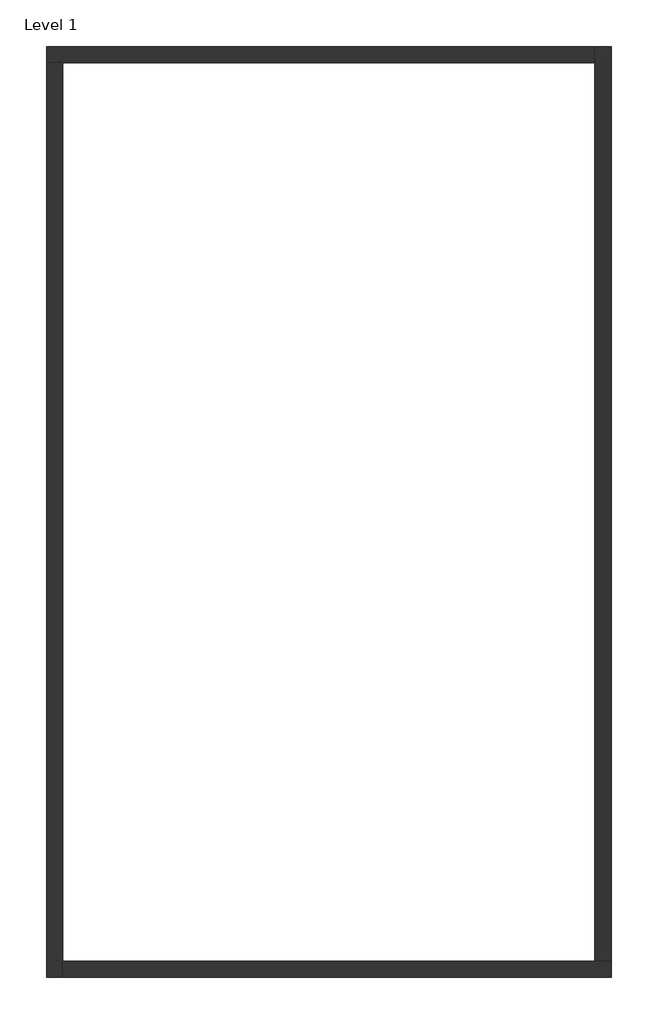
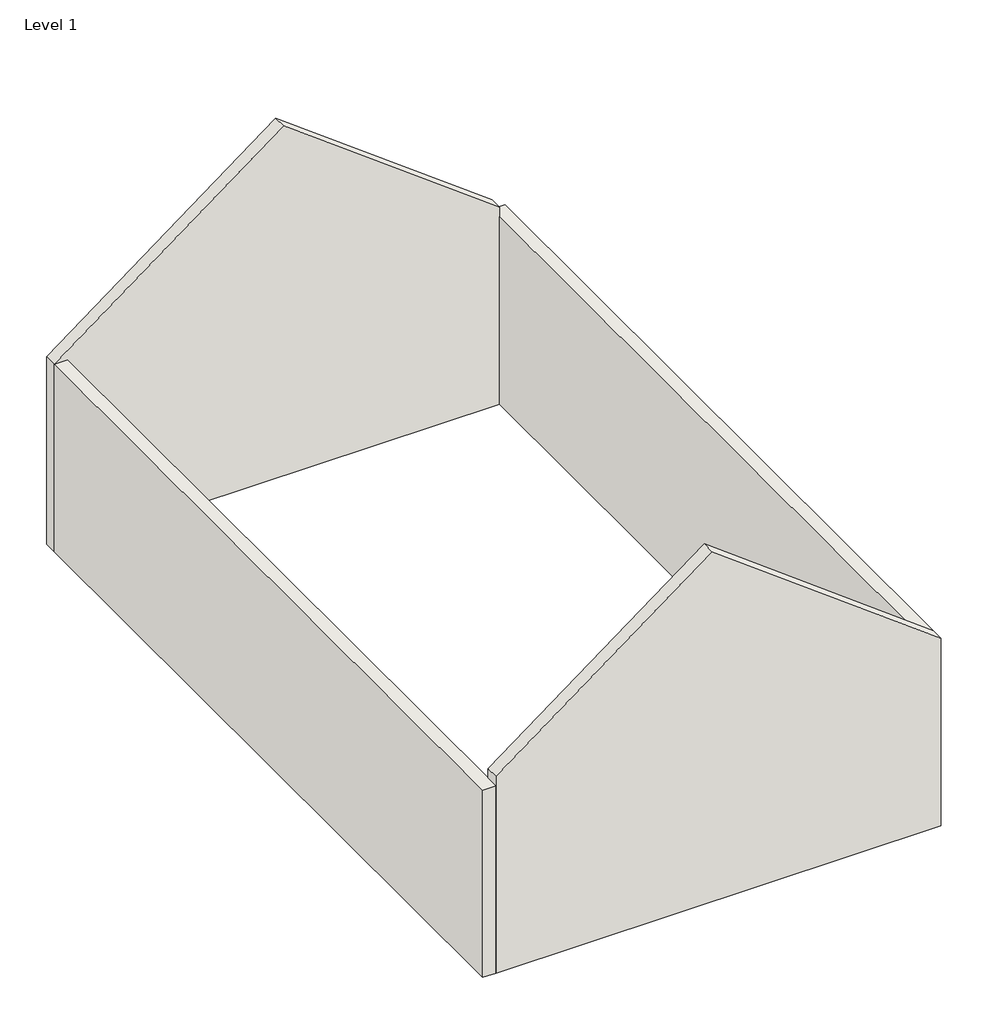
# One storey: 4 walls.
"""IFC4 building model written with IfcOpenShell, lengths in millimetres."""

from ifc_helpers import new_model, si_unit, origin, place, context, project, spatial, faceted_brep, element, save

model = new_model("IFC4")

# Units and contexts
model_context = context("Model", 3, world=origin())
ifc_project = project(units=[si_unit("LENGTHUNIT", "METRE", prefix="MILLI")], contexts=[model_context])

# Site, building, storey
site = spatial("IfcSite", under=ifc_project)
building = spatial("IfcBuilding", under=site)
storey = spatial("IfcBuildingStorey", under=building, Name="Level 1", Elevation=0.0)

# Walls
placement = place(None, origin())
element("IfcWall", 1, ObjectType="Generic - 8\"", at=placement, inside=storey, context=model_context, shape_type="Brep", body=[
    faceted_brep([(-8137.9216569, 10658.0747048, 0.0), (-7934.7216569, 10658.0747048, 0.0), (-1279.9216569, 10658.0747048, 0.0), (-1279.9216569, 10658.0747048, 3200.4), (-4607.3216569, 10658.0747048, 5695.95), (-8137.9216569, 10658.0747048, 3048.0), (-8137.9216569, 10861.2747048, 0.0), (-8137.9216569, 10861.2747048, 3048.0), (-4607.3216569, 10861.2747048, 5695.95), (-1279.9216569, 10861.2747048, 3200.4), (-1279.9216569, 10861.2747048, 3048.0), (-1279.9216569, 10861.2747048, 0.0)], [[[0, 1, 2, 3, 4, 5]], [[6, 7, 8, 9, 10, 11]], [[2, 1, 0, 6, 11]], [[0, 5, 7, 6]], [[3, 2, 11, 10, 9]], [[5, 4, 8, 7]], [[4, 3, 9, 8]]]),
])
element("IfcWall", 2, ObjectType="Generic - 8\"", at=placement, inside=storey, context=model_context, shape_type="Brep", body=[
    faceted_brep([(-7934.7216569, -771.9252952, 0.0), (-7934.7216569, -568.7252952, 0.0), (-7934.7216569, 10658.0747048, 0.0), (-7934.7216569, 10658.0747048, 3048.0), (-7934.7216569, -771.9252952, 3048.0), (-8137.9216569, -771.9252952, 0.0), (-8137.9216569, -771.9252952, 3048.0), (-8137.9216569, 10658.0747048, 3048.0), (-8137.9216569, 10658.0747048, 0.0)], [[[0, 1, 2, 3, 4]], [[5, 6, 7, 8]], [[2, 1, 0, 5, 8]], [[4, 3, 7, 6]], [[0, 4, 6, 5]], [[3, 2, 8, 7]]]),
])
element("IfcWall", 3, ObjectType="Generic - 8\"", at=placement, inside=storey, context=model_context, shape_type="Brep", body=[
    faceted_brep([(-1076.7216569, -568.7252952, 0.0), (-1279.9216569, -568.7252952, 0.0), (-7934.7216569, -568.7252952, 0.0), (-7934.7216569, -568.7252952, 3200.4), (-4607.3216569, -568.7252952, 5695.95), (-1076.7216569, -568.7252952, 3048.0), (-1076.7216569, -771.9252952, 0.0), (-1076.7216569, -771.9252952, 3048.0), (-4607.3216569, -771.9252952, 5695.95), (-7934.7216569, -771.9252952, 3200.4), (-7934.7216569, -771.9252952, 3048.0), (-7934.7216569, -771.9252952, 0.0)], [[[0, 1, 2, 3, 4, 5]], [[6, 7, 8, 9, 10, 11]], [[2, 1, 0, 6, 11]], [[0, 5, 7, 6]], [[3, 2, 11, 10, 9]], [[5, 4, 8, 7]], [[4, 3, 9, 8]]]),
])
element("IfcWall", 4, ObjectType="Generic - 8\"", at=placement, inside=storey, context=model_context, shape_type="Brep", body=[
    faceted_brep([(-1279.9216569, 10861.2747048, 0.0), (-1279.9216569, 10658.0747048, 0.0), (-1279.9216569, -568.7252952, 0.0), (-1279.9216569, -568.7252952, 3048.0), (-1279.9216569, 10861.2747048, 3048.0), (-1076.7216569, 10861.2747048, 0.0), (-1076.7216569, 10861.2747048, 3048.0), (-1076.7216569, -568.7252952, 3048.0), (-1076.7216569, -568.7252952, 0.0)], [[[0, 1, 2, 3, 4]], [[5, 6, 7, 8]], [[2, 1, 0, 5, 8]], [[4, 3, 7, 6]], [[0, 4, 6, 5]], [[3, 2, 8, 7]]]),
])

save(model, "model.ifc")
